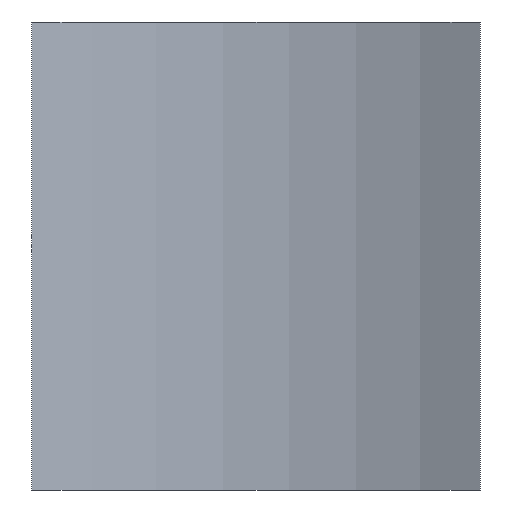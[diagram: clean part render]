
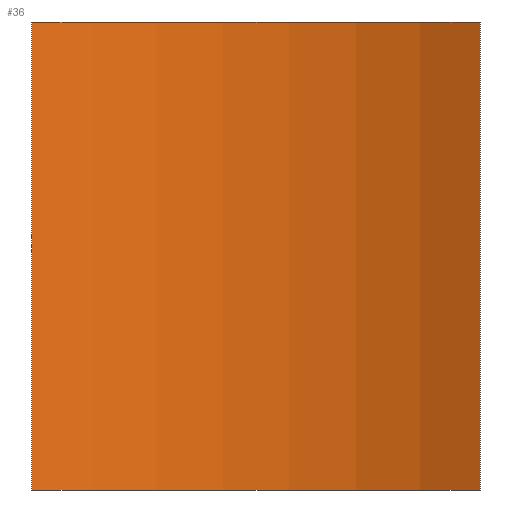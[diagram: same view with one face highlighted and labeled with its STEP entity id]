
A CAD part, left-side view. The second image highlights one B-rep face of the part: STEP entity #36.
In plain terms, the highlighted face is a extrusion surface.
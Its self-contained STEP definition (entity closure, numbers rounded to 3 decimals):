
#1=CARTESIAN_POINT('',(0.,0.,0.));
#2=DIRECTION('',(0.,0.,1.));
#3=DIRECTION('',(1.,0.,0.));
#4=AXIS2_PLACEMENT_3D('',#1,#2,#3);
#5=CIRCLE('',#4,10.);
#6=VECTOR('',#2,1.);
#7=SURFACE_OF_LINEAR_EXTRUSION('',#5,#6);
#8=CIRCLE('',#4,10.);
#10=CARTESIAN_POINT('',(8.776,-4.794,0.));
#11=CARTESIAN_POINT('',(8.776,-4.794,10.));
#12=CARTESIAN_POINT('',(8.776,4.794,10.));
#13=CARTESIAN_POINT('',(8.776,4.794,0.));
#14=VERTEX_POINT('',#10);
#15=VERTEX_POINT('',#11);
#16=VERTEX_POINT('',#12);
#17=VERTEX_POINT('',#13);
#20=LINE('',#10,#6);
#21=EDGE_CURVE('',#14,#15,#20,.T.);
#22=CARTESIAN_POINT('',(0.,0.,10.));
#23=AXIS2_PLACEMENT_3D('',#22,#2,#3);
#24=CIRCLE('',#23,10.);
#25=EDGE_CURVE('',#15,#16,#24,.T.);
#26=LINE('',#13,#6);
#27=EDGE_CURVE('',#17,#16,#26,.T.);
#28=EDGE_CURVE('',#14,#17,#8,.T.);
#30=ORIENTED_EDGE('',*,*,#21,.T.);
#31=ORIENTED_EDGE('',*,*,#25,.T.);
#32=ORIENTED_EDGE('',*,*,#27,.F.);
#33=ORIENTED_EDGE('',*,*,#28,.F.);
#34=EDGE_LOOP('',(#30,#31,#32,#33));
#35=FACE_OUTER_BOUND('',#34,.T.);
#36=ADVANCED_FACE('',(#35),#7,.T.);
